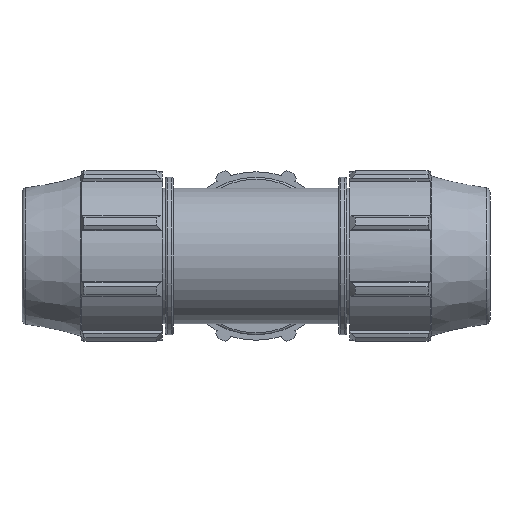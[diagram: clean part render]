
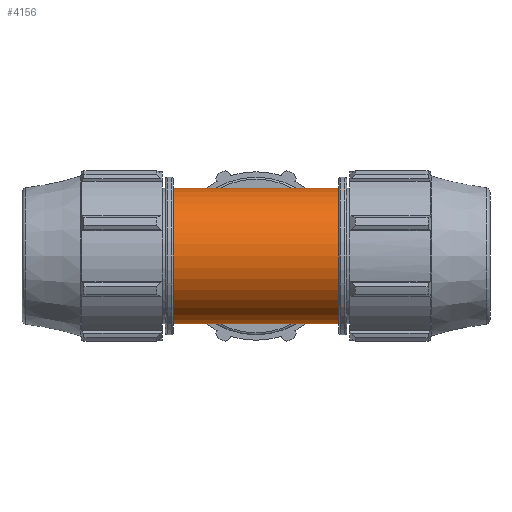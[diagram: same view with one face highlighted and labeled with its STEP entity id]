
A CAD part, front view. The second image highlights one B-rep face of the part: STEP entity #4156.
In plain terms, the highlighted cylindrical face has radius 42.386 mm (diameter 84.772 mm), a full revolution.
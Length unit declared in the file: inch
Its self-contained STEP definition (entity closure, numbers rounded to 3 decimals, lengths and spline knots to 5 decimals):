
#131=ELLIPSE('',#4401,2.35997,1.66875);
#132=ELLIPSE('',#4402,2.35997,1.66875);
#133=ELLIPSE('',#4404,2.35997,1.66875);
#134=ELLIPSE('',#4405,2.35997,1.66875);
#139=LINE('',#6065,#454);
#140=LINE('',#6071,#455);
#454=VECTOR('',#4864,1.66875);
#455=VECTOR('',#4869,1.66875);
#769=CYLINDRICAL_SURFACE('',#4398,1.66875);
#850=FACE_OUTER_BOUND('',#1064,.T.);
#1064=EDGE_LOOP('',(#2586,#2587,#2588,#2589,#2590,#2591,#2592,#2593,#2594,
#2595,#2596));
#1299=CIRCLE('',#4399,1.66875);
#1300=CIRCLE('',#4400,1.66875);
#1301=CIRCLE('',#4403,1.66875);
#1524=VERTEX_POINT('',#6060);
#1525=VERTEX_POINT('',#6061);
#1526=VERTEX_POINT('',#6064);
#1527=VERTEX_POINT('',#6066);
#1528=VERTEX_POINT('',#6068);
#1529=VERTEX_POINT('',#6070);
#1530=VERTEX_POINT('',#6073);
#1956=EDGE_CURVE('',#1524,#1525,#1299,.T.);
#1957=EDGE_CURVE('',#1525,#1524,#1300,.T.);
#1958=EDGE_CURVE('',#1525,#1526,#139,.T.);
#1959=EDGE_CURVE('',#1526,#1527,#131,.T.);
#1960=EDGE_CURVE('',#1527,#1528,#132,.T.);
#1961=EDGE_CURVE('',#1528,#1529,#140,.T.);
#1962=EDGE_CURVE('',#1529,#1529,#1301,.T.);
#1963=EDGE_CURVE('',#1528,#1530,#133,.T.);
#1964=EDGE_CURVE('',#1530,#1526,#134,.T.);
#2586=ORIENTED_EDGE('',*,*,#1956,.F.);
#2587=ORIENTED_EDGE('',*,*,#1957,.F.);
#2588=ORIENTED_EDGE('',*,*,#1958,.T.);
#2589=ORIENTED_EDGE('',*,*,#1959,.T.);
#2590=ORIENTED_EDGE('',*,*,#1960,.T.);
#2591=ORIENTED_EDGE('',*,*,#1961,.T.);
#2592=ORIENTED_EDGE('',*,*,#1962,.F.);
#2593=ORIENTED_EDGE('',*,*,#1961,.F.);
#2594=ORIENTED_EDGE('',*,*,#1963,.T.);
#2595=ORIENTED_EDGE('',*,*,#1964,.T.);
#2596=ORIENTED_EDGE('',*,*,#1958,.F.);
#4156=ADVANCED_FACE('',(#850),#769,.T.);
#4398=AXIS2_PLACEMENT_3D('',#6059,#4858,#4859);
#4399=AXIS2_PLACEMENT_3D('',#6062,#4860,#4861);
#4400=AXIS2_PLACEMENT_3D('',#6063,#4862,#4863);
#4401=AXIS2_PLACEMENT_3D('',#6067,#4865,#4866);
#4402=AXIS2_PLACEMENT_3D('',#6069,#4867,#4868);
#4403=AXIS2_PLACEMENT_3D('',#6072,#4870,#4871);
#4404=AXIS2_PLACEMENT_3D('',#6074,#4872,#4873);
#4405=AXIS2_PLACEMENT_3D('',#6075,#4874,#4875);
#4858=DIRECTION('center_axis',(-1.,0.,0.));
#4859=DIRECTION('ref_axis',(0.,-1.,0.));
#4860=DIRECTION('center_axis',(-1.,0.,0.));
#4861=DIRECTION('ref_axis',(0.,0.,-1.));
#4862=DIRECTION('center_axis',(-1.,0.,0.));
#4863=DIRECTION('ref_axis',(0.,0.,-1.));
#4864=DIRECTION('',(1.,0.,0.));
#4865=DIRECTION('center_axis',(-0.707,-0.707,0.));
#4866=DIRECTION('ref_axis',(-0.707,0.707,0.));
#4867=DIRECTION('center_axis',(0.707,-0.707,0.));
#4868=DIRECTION('ref_axis',(-0.707,-0.707,0.));
#4869=DIRECTION('',(1.,0.,0.));
#4870=DIRECTION('center_axis',(1.,0.,0.));
#4871=DIRECTION('ref_axis',(0.,0.,-1.));
#4872=DIRECTION('center_axis',(0.707,-0.707,0.));
#4873=DIRECTION('ref_axis',(-0.707,-0.707,0.));
#4874=DIRECTION('center_axis',(-0.707,-0.707,0.));
#4875=DIRECTION('ref_axis',(-0.707,0.707,0.));
#6059=CARTESIAN_POINT('Origin',(-1.7475,0.,0.));
#6060=CARTESIAN_POINT('',(-2.035,-1.66875,0.));
#6061=CARTESIAN_POINT('',(-2.035,1.66875,0.));
#6062=CARTESIAN_POINT('Origin',(-2.035,0.,0.));
#6063=CARTESIAN_POINT('Origin',(-2.035,0.,0.));
#6064=CARTESIAN_POINT('',(-1.66875,1.66875,0.));
#6065=CARTESIAN_POINT('',(-1.7475,1.66875,0.));
#6066=CARTESIAN_POINT('',(0.,0.,-1.66875));
#6067=CARTESIAN_POINT('Origin',(0.,0.,0.));
#6068=CARTESIAN_POINT('',(1.66875,1.66875,0.));
#6069=CARTESIAN_POINT('Origin',(0.,0.,0.));
#6070=CARTESIAN_POINT('',(2.035,1.66875,0.));
#6071=CARTESIAN_POINT('',(-1.7475,1.66875,0.));
#6072=CARTESIAN_POINT('Origin',(2.035,0.,0.));
#6073=CARTESIAN_POINT('',(0.,0.,1.66875));
#6074=CARTESIAN_POINT('Origin',(0.,0.,0.));
#6075=CARTESIAN_POINT('Origin',(0.,0.,0.));
